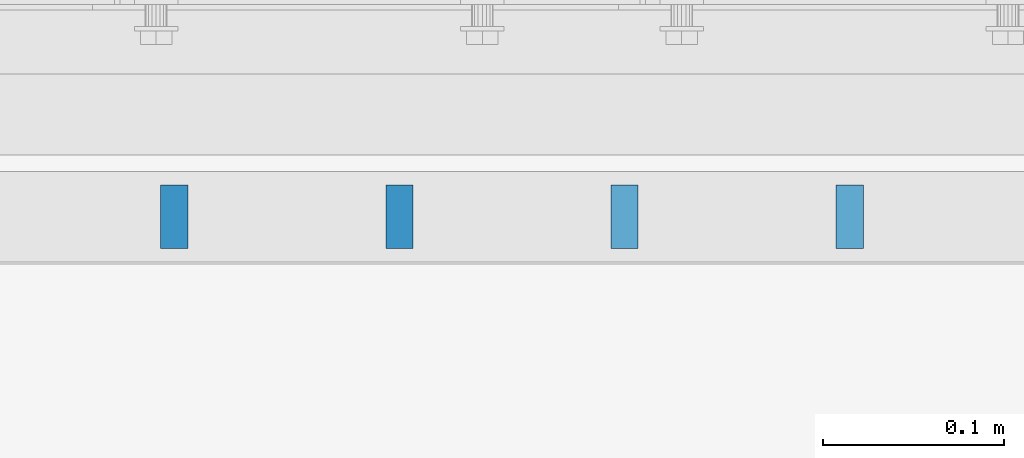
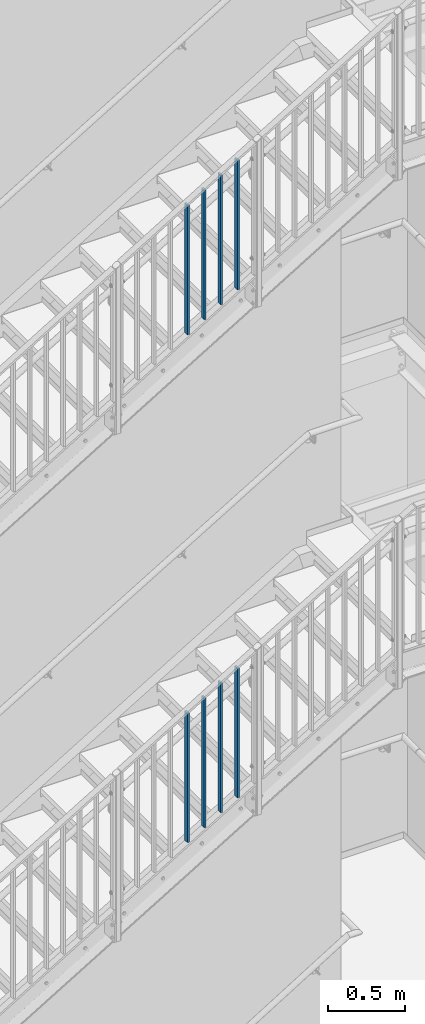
# One storey, part 13 of 410: 8 columns.
"""IFC2X3 building model written with IfcOpenShell, lengths in millimetres."""

from ifc_helpers import new_model, entity, si_unit, converted_unit, frame, origin, origin_with_axes, origin_2d, place, context, project, spatial, rectangle, extrude, material, element, save


model = new_model("IFC2X3")

# Units and contexts
model_context = context("Model", 3, precision=1e-09, world=origin_with_axes())
ifc_project = project(units=[si_unit("LENGTHUNIT", "METRE", prefix="MILLI"), si_unit("AREAUNIT", "SQUARE_METRE"), si_unit("VOLUMEUNIT", "CUBIC_METRE"), converted_unit("PLANEANGLEUNIT", "DEGREE", entity("IfcPlaneAngleMeasure", 0.01745329), si_unit("PLANEANGLEUNIT", "RADIAN"), dimensions=[0, 0, 0, 0, 0, 0, 0])], contexts=[model_context])

# Site, building, storey
site_placement = place(None, origin_with_axes())
site = spatial("IfcSite", under=ifc_project, at=site_placement, Name="mKR Teilneubau & Sanierung BA1 - Ostfildern", CompositionType="ELEMENT")
building_placement = place(site_placement, origin_with_axes())
building = spatial("IfcBuilding", under=site, at=building_placement, Name="Struktur 1", CompositionType="ELEMENT")
storey_placement = place(building_placement, origin_with_axes())
storey = spatial("IfcBuildingStorey", under=building, at=storey_placement, Name="Default Storey", CompositionType="ELEMENT", Elevation=0.0)

# Columns
ifc_material = material(Name="S235JR")
for number, where, z_axis, x_axis in (
    (1, (-209.998531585, 15405.999999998, 5980.11067278), (0.0, 0.0, 1.0), (-1.0, 0.0, 0.0)),
    (2, (-85.748531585, 15405.999999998, 6055.089121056), (0.0, 0.0, 1.0), (-1.0, 0.0, 0.0)),
    (3, (38.501468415, 15405.999999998, 6130.067569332), (0.0, 0.0, 1.0), (-1.0, 0.0, 0.0)),
    (4, (162.751468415, 15405.999999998, 6205.046017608), (0.0, 0.0, 1.0), (-1.0, 0.0, 0.0)),
):
    element("IfcColumn", number, at=place(None, frame(where, z_axis=z_axis, x_axis=x_axis)), inside=storey, material=ifc_material, Name="-", ObjectType="-", context=model_context, shape_type="SweptSolid", body=[
        extrude(rectangle(XDim=15.0, YDim=35.0, at=origin_2d()), origin(), (0.0, 0.0, -1.0), 1020.870181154),
    ])
for number, where, z_axis, x_axis in (
    (5, (-209.99853167, 15405.999999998, 1974.564311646), (0.0, 0.0, 1.0), (-1.0, 0.0, 0.0)),
    (6, (-85.74853167, 15405.999999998, 2049.077055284), (0.0, 0.0, 1.0), (-1.0, 0.0, 0.0)),
    (7, (38.50146833, 15405.999999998, 2123.589798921), (0.0, 0.0, 1.0), (-1.0, 0.0, 0.0)),
    (8, (162.75146833, 15405.999999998, 2198.102542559), (0.0, 0.0, 1.0), (-1.0, 0.0, 0.0)),
):
    element("IfcColumn", number, at=place(None, frame(where, z_axis=z_axis, x_axis=x_axis)), inside=storey, material=ifc_material, Name="-", ObjectType="-", context=model_context, shape_type="SweptSolid", body=[
        extrude(rectangle(XDim=15.0, YDim=35.0, at=origin_2d()), origin(), (0.0, 0.0, -1.0), 1021.042329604),
    ])

save(model, "model.ifc")
